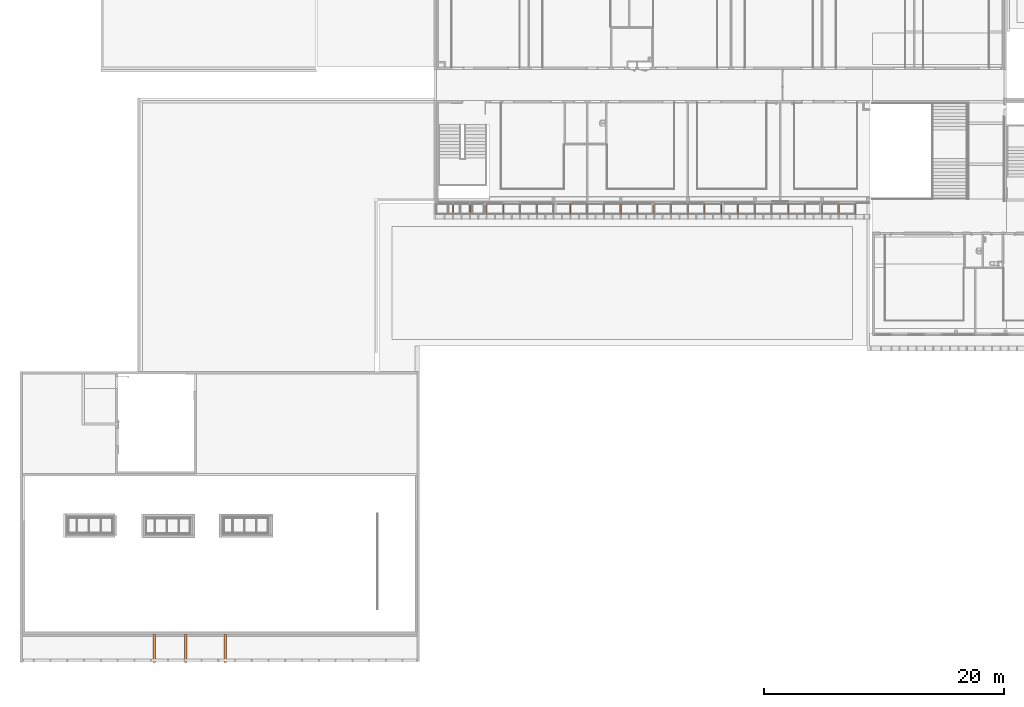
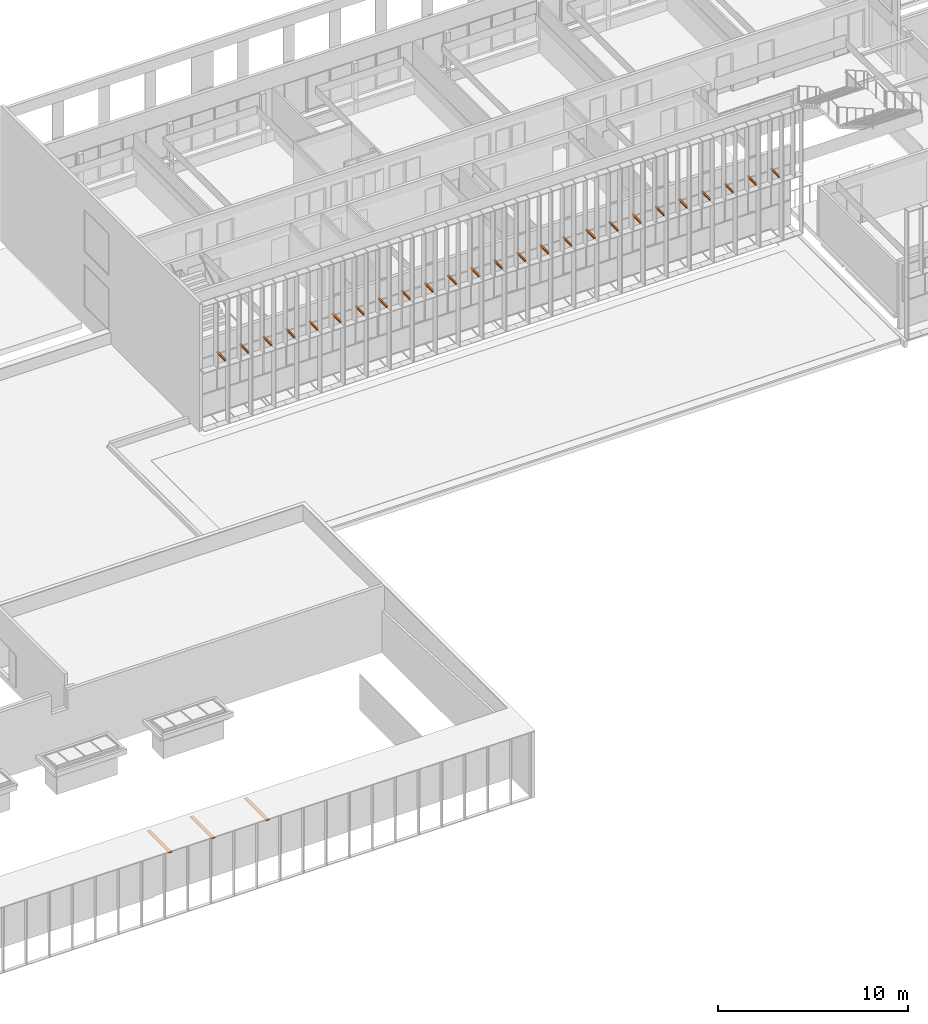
# One storey, part 106 of 106: 32 proxies.
"""IFC2X3 building model written with IfcOpenShell, lengths in centimetres."""

from ifc_helpers import new_model, entity, si_unit, converted_unit, derived_unit, direction, frame, origin, place, context, subcontext, project, spatial, polyline, outline, extrude, source, transform, mapped, material, type_object, type_shapes, element, save


model = new_model("IFC2X3")

# Units and contexts
model_context = context("Model", 3, precision=0.001, world=origin(), true_north=direction((6.12303176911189e-17, 1.0)))
body_context = subcontext(model_context, "Body", "Model", "MODEL_VIEW")
ifc_project = project(units=[si_unit("LENGTHUNIT", "METRE", prefix="CENTI"), si_unit("AREAUNIT", "SQUARE_METRE"), si_unit("VOLUMEUNIT", "CUBIC_METRE"), converted_unit("PLANEANGLEUNIT", "DEGREE", entity("IfcRatioMeasure", 0.0174532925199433), si_unit("PLANEANGLEUNIT", "RADIAN"), dimensions=[0, 0, 0, 0, 0, 0, 0]), si_unit("MASSUNIT", "GRAM", prefix="KILO"), derived_unit("MASSDENSITYUNIT", [(si_unit("MASSUNIT", "GRAM", prefix="KILO"), 1), (si_unit("LENGTHUNIT", "METRE"), -3)]), si_unit("TIMEUNIT", "SECOND"), si_unit("FREQUENCYUNIT", "HERTZ"), si_unit("THERMODYNAMICTEMPERATUREUNIT", "DEGREE_CELSIUS"), derived_unit("THERMALTRANSMITTANCEUNIT", [(si_unit("MASSUNIT", "GRAM", prefix="KILO"), 1), (si_unit("THERMODYNAMICTEMPERATUREUNIT", "KELVIN"), -1), (si_unit("TIMEUNIT", "SECOND"), -3)]), derived_unit("VOLUMETRICFLOWRATEUNIT", [(si_unit("LENGTHUNIT", "METRE"), 3), (si_unit("TIMEUNIT", "SECOND"), -1)]), si_unit("ELECTRICCURRENTUNIT", "AMPERE"), si_unit("ELECTRICVOLTAGEUNIT", "VOLT"), si_unit("POWERUNIT", "WATT"), si_unit("FORCEUNIT", "NEWTON", prefix="KILO"), si_unit("ILLUMINANCEUNIT", "LUX"), si_unit("LUMINOUSFLUXUNIT", "LUMEN"), si_unit("LUMINOUSINTENSITYUNIT", "CANDELA"), derived_unit("USERDEFINED", [(si_unit("MASSUNIT", "GRAM", prefix="KILO"), -1), (si_unit("LENGTHUNIT", "METRE"), -2), (si_unit("TIMEUNIT", "SECOND"), 3), (si_unit("LUMINOUSFLUXUNIT", "LUMEN"), 1)]), derived_unit("LINEARVELOCITYUNIT", [(si_unit("LENGTHUNIT", "METRE"), 1), (si_unit("TIMEUNIT", "SECOND"), -1)]), si_unit("PRESSUREUNIT", "PASCAL"), derived_unit("USERDEFINED", [(si_unit("LENGTHUNIT", "METRE"), -2), (si_unit("MASSUNIT", "GRAM", prefix="KILO"), 1), (si_unit("TIMEUNIT", "SECOND"), -2)])], contexts=[model_context])

# Site, building, storey
site_placement = place(None, frame((-2781.94577612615, 7442.24238424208, 0.0)))
site = spatial("IfcSite", under=ifc_project, at=site_placement, Name="Default", CompositionType="ELEMENT")
building_placement = place(site_placement, origin())
building = spatial("IfcBuilding", under=site, at=building_placement, CompositionType="ELEMENT")
storey_placement = place(building_placement, frame((0.0, 0.0, 422.0)))
storey = spatial("IfcBuildingStorey", under=building, at=storey_placement, Name="Toiture - Cuisine", CompositionType="ELEMENT", Elevation=421.999999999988)

# Proxies
ifc_material = material(Name="Alu")
building_element_proxy_type_1 = type_object("IfcBuildingElementProxyType", Name="Tube métal épine", PredefinedType="NOTDEFINED", material=ifc_material)
shared_shape_1 = source(origin(), body_context, "Body", "SweptSolid", [
    extrude(outline(polyline([(-10.0, -1.5), (10.0, -1.5), (10.0, 1.5), (-10.0, 1.5), (-10.0, -1.5)]), holes=[polyline([(-9.6, -1.1), (-9.6, 1.1), (9.6, 1.1), (9.6, -1.1), (-9.6, -1.1)])]), frame((-6.8876172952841, 0.0, 1.5), z_axis=(0.0, 1.0, 0.0), x_axis=(1.0, 0.0, 0.0)), (0.0, 0.0, 1.0), 235.0),
])
type_shapes(building_element_proxy_type_1, [shared_shape_1])
for number, where in (
    (1, (-10755.9647381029, -5781.50173441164, 737.0)),
    (2, (-10495.9647381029, -5781.50173441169, 737.0)),
    (3, (-10165.9647381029, -5781.50173441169, 737.0)),
):
    element("IfcBuildingElementProxy", number, at=place(building_placement, frame(where)), inside=storey, type_object=building_element_proxy_type_1, material=ifc_material, Name="Tube support façade:Tube métal épine", ObjectType="Tube support façade:Tube métal épine", context=body_context, shape_type="MappedRepresentation", body=[
        mapped(shared_shape_1, transform((0.0, 0.0, 0.0), scale=1.0)),
    ])
building_element_proxy_type_2 = type_object("IfcBuildingElementProxyType", Name="Tube métal épine - Façade Sud", PredefinedType="NOTDEFINED", material=ifc_material)
shared_shape_2 = source(origin(), body_context, "Body", "SweptSolid", [
    extrude(outline(polyline([(-5.0, -5.0), (5.0, -5.0), (5.0, 5.0), (-5.0, 5.0), (-5.0, -5.0)]), holes=[polyline([(-4.6, -4.6), (-4.6, 4.6), (4.6, 4.6), (4.6, -4.6), (-4.6, -4.6)])]), frame((-1.8876172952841, 0.0, 5.0), z_axis=(0.0, 1.0, 0.0), x_axis=(1.0, 0.0, 0.0)), (0.0, 0.0, 1.0), 89.9999999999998),
])
type_shapes(building_element_proxy_type_2, [shared_shape_2])
for number, where in (
    (4, (-8267.61226034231, -2040.07903364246, 746.5)),
    (5, (-8127.61226034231, -2040.07903364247, 746.5)),
    (6, (-7987.61226034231, -2040.07903364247, 746.5)),
    (7, (-7847.61226034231, -2040.07903364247, 746.5)),
    (8, (-7707.61226034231, -2040.07903364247, 746.5)),
    (9, (-7567.61226034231, -2040.07903364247, 746.5)),
    (10, (-7427.61226034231, -2040.07903364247, 746.5)),
    (11, (-7287.61226034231, -2040.07903364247, 746.5)),
    (12, (-7287.61226034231, -2040.07903364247, 746.5)),
    (13, (-7147.61226034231, -2040.07903364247, 746.5)),
    (14, (-7007.61226034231, -2040.07903364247, 746.5)),
    (15, (-6867.61226034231, -2040.07903364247, 746.5)),
    (16, (-6867.6122603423, -2040.07903364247, 746.5)),
    (17, (-6727.61226034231, -2040.07903364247, 746.5)),
    (18, (-6587.61226034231, -2040.07903364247, 746.5)),
    (19, (-6447.6122603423, -2040.07903364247, 746.5)),
    (20, (-6307.61226034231, -2040.07903364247, 746.5)),
    (21, (-6167.61226034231, -2040.07903364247, 746.5)),
    (22, (-6027.6122603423, -2040.07903364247, 746.5)),
    (23, (-5887.6122603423, -2040.07903364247, 746.5)),
    (24, (-6027.6122603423, -2040.07903364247, 746.5)),
    (25, (-5887.61226034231, -2040.07903364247, 746.5)),
    (26, (-5747.6122603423, -2040.07903364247, 746.5)),
    (27, (-5607.6122603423, -2040.07903364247, 746.5)),
    (28, (-5467.6122603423, -2040.07903364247, 746.5)),
    (29, (-5327.6122603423, -2040.07903364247, 746.5)),
    (30, (-5187.6122603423, -2040.07903364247, 746.5)),
    (31, (-5047.6122603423, -2040.07903364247, 746.5)),
    (32, (-4907.6122603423, -2040.07903364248, 746.5)),
):
    element("IfcBuildingElementProxy", number, at=place(building_placement, frame(where)), inside=storey, type_object=building_element_proxy_type_2, material=ifc_material, Name="Tube support façade:Tube métal épine - Façade Sud", ObjectType="Tube support façade:Tube métal épine - Façade Sud", context=body_context, shape_type="MappedRepresentation", body=[
        mapped(shared_shape_2, transform((0.0, 0.0, 0.0), scale=1.0)),
    ])

save(model, "model.ifc")
